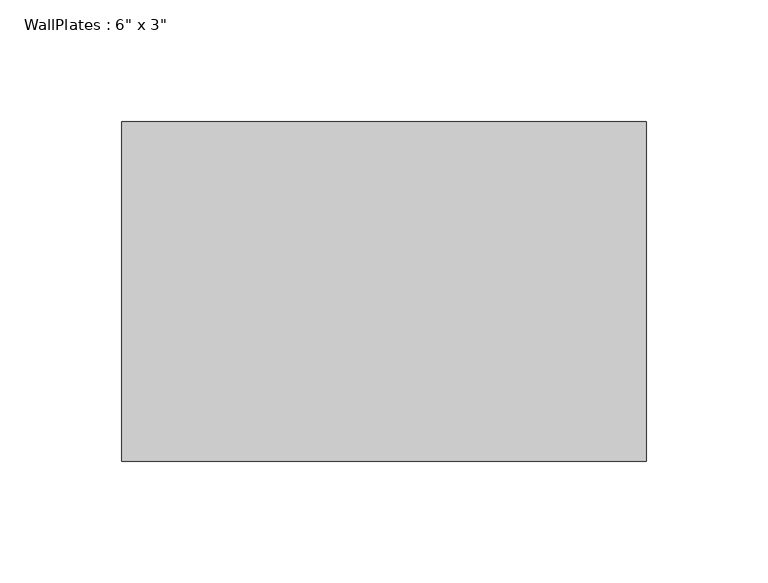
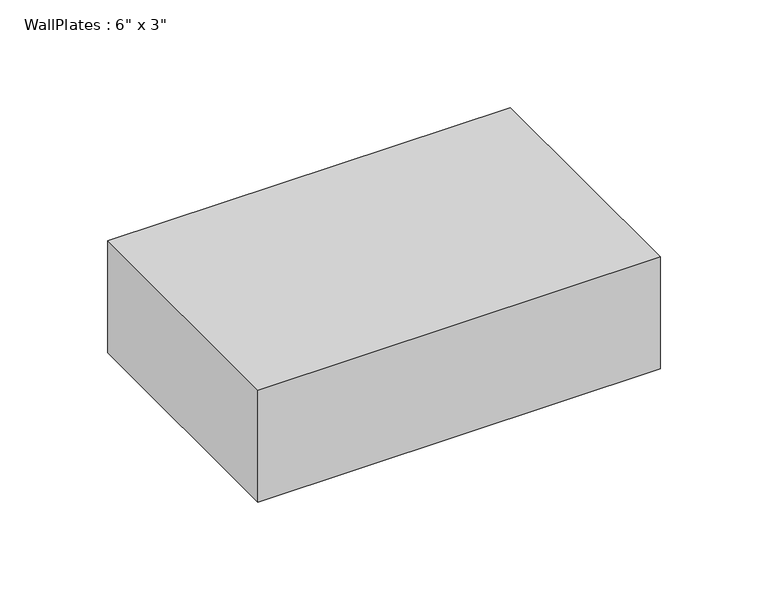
"""IFC4 building model written with IfcOpenShell, lengths in millimetres: beam geometry."""

from ifc_helpers import new_model, si_unit, frame, origin, place, context, project, spatial, polyline, outline, extrude, source, transform, mapped, element, save


def beam_fc46719c(model_context):
    return source(origin(), model_context, "Body", "SweptSolid", [
        extrude(outline(polyline([(-107.95, -69.85), (-107.95, 69.85), (107.95, 69.85), (107.95, -69.85), (-107.95, -69.85)])), frame((0.0, 0.0, -31.75), z_axis=(0.0, 0.0, 1.0), x_axis=(1.0, 0.0, 0.0)), (0.0, 0.0, 1.0), 63.5),
    ])


if __name__ == "__main__":
    model = new_model("IFC4")
    model_context = context("Model", 3, world=origin())
    ifc_project = project(units=[si_unit("LENGTHUNIT", "METRE", prefix="MILLI")], contexts=[model_context])
    site = spatial("IfcSite", under=ifc_project)
    building = spatial("IfcBuilding", under=site)
    placement = place(None, origin())
    beam_shape = beam_fc46719c(model_context)
    element("IfcBeam", 1, ObjectType="WallPlates : 6\" x 3\"", at=placement, inside=building, context=model_context, shape_type="MappedRepresentation", body=[
        mapped(beam_shape, transform((0.0, 0.0, 0.0), x_axis=(1.0, 0.0, 0.0), y_axis=(0.0, 1.0, 0.0), z_axis=(0.0, 0.0, 1.0))),
    ])
    save(model, "model.ifc")
